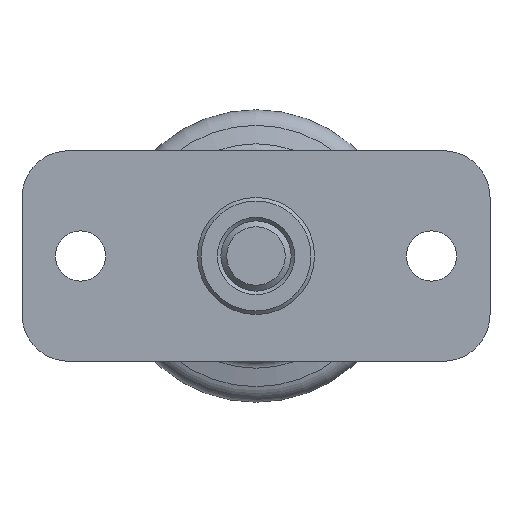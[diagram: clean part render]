
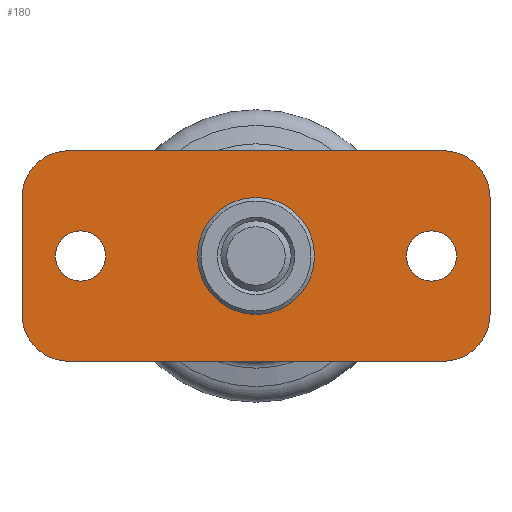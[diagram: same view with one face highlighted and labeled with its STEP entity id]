
A CAD part, front view. The second image highlights one B-rep face of the part: STEP entity #180.
In plain terms, the highlighted planar face has unit normal (0, -1, 0).
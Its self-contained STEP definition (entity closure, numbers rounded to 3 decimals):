
#180 = ADVANCED_FACE( '', ( #276, #277, #278, #279 ), #280, .F. );
#276 = FACE_BOUND( '', #470, .T. );
#277 = FACE_BOUND( '', #471, .T. );
#278 = FACE_BOUND( '', #472, .T. );
#279 = FACE_OUTER_BOUND( '', #473, .T. );
#280 = PLANE( '', #474 );
#470 = EDGE_LOOP( '', ( #718 ) );
#471 = EDGE_LOOP( '', ( #719 ) );
#472 = EDGE_LOOP( '', ( #720 ) );
#473 = EDGE_LOOP( '', ( #721, #722, #723, #724, #725, #726, #727, #728 ) );
#474 = AXIS2_PLACEMENT_3D( '', #729, #730, #731 );
#718 = ORIENTED_EDGE( '', *, *, #1227, .F. );
#719 = ORIENTED_EDGE( '', *, *, #1228, .F. );
#720 = ORIENTED_EDGE( '', *, *, #1229, .F. );
#721 = ORIENTED_EDGE( '', *, *, #1230, .F. );
#722 = ORIENTED_EDGE( '', *, *, #1231, .F. );
#723 = ORIENTED_EDGE( '', *, *, #1232, .F. );
#724 = ORIENTED_EDGE( '', *, *, #1233, .F. );
#725 = ORIENTED_EDGE( '', *, *, #1234, .F. );
#726 = ORIENTED_EDGE( '', *, *, #1235, .F. );
#727 = ORIENTED_EDGE( '', *, *, #1236, .F. );
#728 = ORIENTED_EDGE( '', *, *, #1237, .F. );
#729 = CARTESIAN_POINT( '', ( -16., 0., 5. ) );
#730 = DIRECTION( '', ( 0., 1., 0. ) );
#731 = DIRECTION( '', ( 0., 0., 1. ) );
#1227 = EDGE_CURVE( '', #1410, #1410, #1411, .T. );
#1228 = EDGE_CURVE( '', #1412, #1412, #1413, .T. );
#1229 = EDGE_CURVE( '', #1414, #1414, #1415, .T. );
#1230 = EDGE_CURVE( '', #1416, #1417, #1418, .T. );
#1231 = EDGE_CURVE( '', #1419, #1416, #1420, .T. );
#1232 = EDGE_CURVE( '', #1421, #1419, #1422, .T. );
#1233 = EDGE_CURVE( '', #1423, #1421, #1424, .T. );
#1234 = EDGE_CURVE( '', #1425, #1423, #1426, .T. );
#1235 = EDGE_CURVE( '', #1427, #1425, #1428, .T. );
#1236 = EDGE_CURVE( '', #1429, #1427, #1430, .T. );
#1237 = EDGE_CURVE( '', #1417, #1429, #1431, .T. );
#1410 = VERTEX_POINT( '', #1730 );
#1411 = CIRCLE( '', #1731, 2.15 );
#1412 = VERTEX_POINT( '', #1732 );
#1413 = CIRCLE( '', #1733, 2.15 );
#1414 = VERTEX_POINT( '', #1734 );
#1415 = CIRCLE( '', #1735, 5. );
#1416 = VERTEX_POINT( '', #1736 );
#1417 = VERTEX_POINT( '', #1737 );
#1418 = LINE( '', #1738, #1739 );
#1419 = VERTEX_POINT( '', #1740 );
#1420 = CIRCLE( '', #1741, 4. );
#1421 = VERTEX_POINT( '', #1742 );
#1422 = LINE( '', #1743, #1744 );
#1423 = VERTEX_POINT( '', #1745 );
#1424 = CIRCLE( '', #1746, 4. );
#1425 = VERTEX_POINT( '', #1747 );
#1426 = LINE( '', #1748, #1749 );
#1427 = VERTEX_POINT( '', #1750 );
#1428 = CIRCLE( '', #1751, 4. );
#1429 = VERTEX_POINT( '', #1752 );
#1430 = LINE( '', #1753, #1754 );
#1431 = CIRCLE( '', #1755, 4. );
#1730 = CARTESIAN_POINT( '', ( 15., 0., -2.15 ) );
#1731 = AXIS2_PLACEMENT_3D( '', #2167, #2168, #2169 );
#1732 = CARTESIAN_POINT( '', ( -15., 0., -2.15 ) );
#1733 = AXIS2_PLACEMENT_3D( '', #2170, #2171, #2172 );
#1734 = CARTESIAN_POINT( '', ( 0., 0., -5. ) );
#1735 = AXIS2_PLACEMENT_3D( '', #2173, #2174, #2175 );
#1736 = CARTESIAN_POINT( '', ( -20., 0., -5. ) );
#1737 = CARTESIAN_POINT( '', ( -20., 0., 5. ) );
#1738 = CARTESIAN_POINT( '', ( -20., 0., -5. ) );
#1739 = VECTOR( '', #2176, 1000. );
#1740 = CARTESIAN_POINT( '', ( -16., 0., -9. ) );
#1741 = AXIS2_PLACEMENT_3D( '', #2177, #2178, #2179 );
#1742 = CARTESIAN_POINT( '', ( 16., 0., -9. ) );
#1743 = CARTESIAN_POINT( '', ( 16., 0., -9. ) );
#1744 = VECTOR( '', #2180, 1000. );
#1745 = CARTESIAN_POINT( '', ( 20., 0., -5. ) );
#1746 = AXIS2_PLACEMENT_3D( '', #2181, #2182, #2183 );
#1747 = CARTESIAN_POINT( '', ( 20., 0., 5. ) );
#1748 = CARTESIAN_POINT( '', ( 20., 0., 5. ) );
#1749 = VECTOR( '', #2184, 1000. );
#1750 = CARTESIAN_POINT( '', ( 16., 0., 9. ) );
#1751 = AXIS2_PLACEMENT_3D( '', #2185, #2186, #2187 );
#1752 = CARTESIAN_POINT( '', ( -16., 0., 9. ) );
#1753 = CARTESIAN_POINT( '', ( -16., 0., 9. ) );
#1754 = VECTOR( '', #2188, 1000. );
#1755 = AXIS2_PLACEMENT_3D( '', #2189, #2190, #2191 );
#2167 = CARTESIAN_POINT( '', ( 15., 0., 0. ) );
#2168 = DIRECTION( '', ( 0., -1., 0. ) );
#2169 = DIRECTION( '', ( 0., 0., -1. ) );
#2170 = CARTESIAN_POINT( '', ( -15., 0., 0. ) );
#2171 = DIRECTION( '', ( 0., -1., 0. ) );
#2172 = DIRECTION( '', ( 0., 0., -1. ) );
#2173 = CARTESIAN_POINT( '', ( 0., 0., 0. ) );
#2174 = DIRECTION( '', ( 0., -1., 0. ) );
#2175 = DIRECTION( '', ( 0., 0., -1. ) );
#2176 = DIRECTION( '', ( 0., 0., 1. ) );
#2177 = CARTESIAN_POINT( '', ( -16., 0., -5. ) );
#2178 = DIRECTION( '', ( 0., 1., 0. ) );
#2179 = DIRECTION( '', ( 1., 0., 0. ) );
#2180 = DIRECTION( '', ( -1., 0., 0. ) );
#2181 = CARTESIAN_POINT( '', ( 16., 0., -5. ) );
#2182 = DIRECTION( '', ( 0., 1., 0. ) );
#2183 = DIRECTION( '', ( 1., 0., 0. ) );
#2184 = DIRECTION( '', ( 0., 0., -1. ) );
#2185 = CARTESIAN_POINT( '', ( 16., 0., 5. ) );
#2186 = DIRECTION( '', ( 0., 1., 0. ) );
#2187 = DIRECTION( '', ( 1., 0., 0. ) );
#2188 = DIRECTION( '', ( 1., 0., 0. ) );
#2189 = CARTESIAN_POINT( '', ( -16., 0., 5. ) );
#2190 = DIRECTION( '', ( 0., 1., 0. ) );
#2191 = DIRECTION( '', ( 1., 0., 0. ) );
